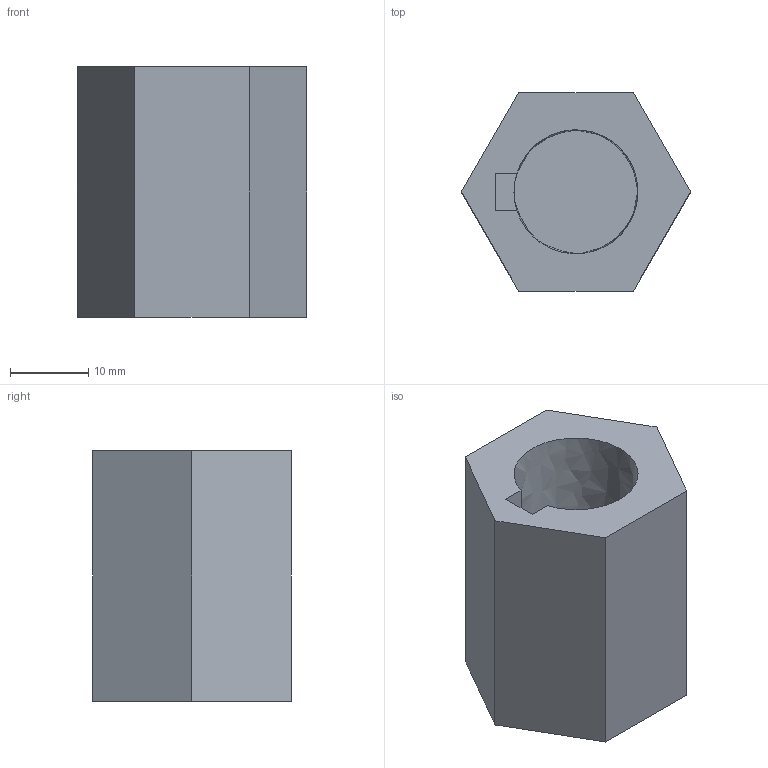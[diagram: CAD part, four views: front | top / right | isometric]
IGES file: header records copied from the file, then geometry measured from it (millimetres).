
Global section: file name: No Iges File Name specified; native system: AutoDesk Inventor R5.0; preprocessor: AutoDesk Inventor Iges Exporter R5.0; author: No Author specified; organization: No Organization specified; date: 20040116.190129; units: inch
Bounding box: 29.33 x 25.4 x 32 mm (x, y, z)
Surface area: 5303 mm2 (no closed solid volume)
Topology: 0 solids, 0 shells, 14 faces, 64 edges, 63 vertices
Faces by surface type: plane 12, bspline 2
